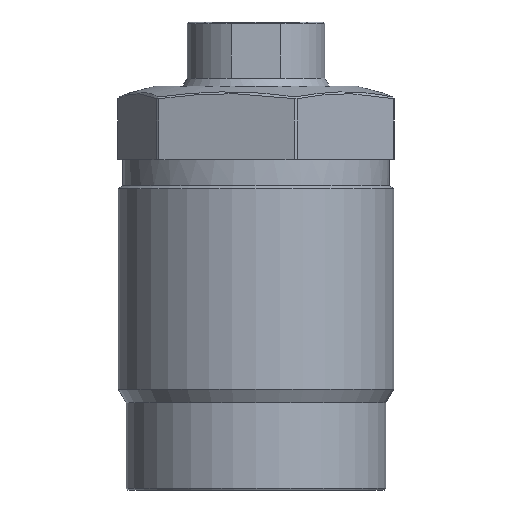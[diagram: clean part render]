
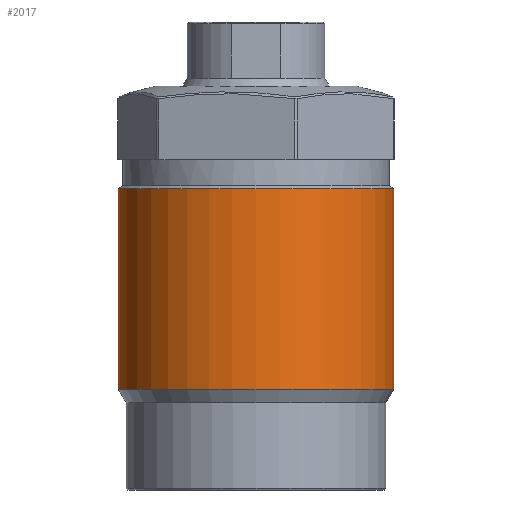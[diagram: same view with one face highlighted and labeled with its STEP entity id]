
A CAD part, front view. The second image highlights one B-rep face of the part: STEP entity #2017.
In plain terms, the highlighted cylindrical face has radius 15 mm (diameter 30 mm), a partial arc.
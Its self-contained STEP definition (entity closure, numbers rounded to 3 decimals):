
#47 = EDGE_CURVE ( 'NONE', #2692, #1356, #2928, .T. ) ;
#79 = ORIENTED_EDGE ( 'NONE', *, *, #2300, .F. ) ;
#182 = CARTESIAN_POINT ( 'NONE',  ( 15., 0., 36. ) ) ;
#394 = CIRCLE ( 'NONE', #2530, 15. ) ;
#472 = FACE_OUTER_BOUND ( 'NONE', #609, .T. ) ;
#498 = LINE ( 'NONE', #182, #1821 ) ;
#609 = EDGE_LOOP ( 'NONE', ( #79, #3006, #1697, #3099 ) ) ;
#1016 = DIRECTION ( 'NONE',  ( 0., 0., -1. ) ) ;
#1056 = DIRECTION ( 'NONE',  ( -1., 0., 0. ) ) ;
#1065 = DIRECTION ( 'NONE',  ( -1., 0., 0. ) ) ;
#1261 = DIRECTION ( 'NONE',  ( 0., 0., -1. ) ) ;
#1271 = LINE ( 'NONE', #2374, #2258 ) ;
#1309 = CYLINDRICAL_SURFACE ( 'NONE', #2764, 15. ) ;
#1356 = VERTEX_POINT ( 'NONE', #3054 ) ;
#1396 = CARTESIAN_POINT ( 'NONE',  ( 15., 0., 11. ) ) ;
#1697 = ORIENTED_EDGE ( 'NONE', *, *, #1780, .T. ) ;
#1743 = AXIS2_PLACEMENT_3D ( 'NONE', #1778, #1016, #2081 ) ;
#1778 = CARTESIAN_POINT ( 'NONE',  ( 0., 0., 32.845 ) ) ;
#1780 = EDGE_CURVE ( 'NONE', #1356, #2280, #1271, .T. ) ;
#1821 = VECTOR ( 'NONE', #1261, 1000. ) ;
#2017 = ADVANCED_FACE ( 'NONE', ( #472 ), #1309, .T. ) ;
#2081 = DIRECTION ( 'NONE',  ( -1., 0., 0. ) ) ;
#2090 = DIRECTION ( 'NONE',  ( 0., 0., 1. ) ) ;
#2114 = CARTESIAN_POINT ( 'NONE',  ( 15., 0., 32.845 ) ) ;
#2119 = CARTESIAN_POINT ( 'NONE',  ( 0., 0., 11. ) ) ;
#2258 = VECTOR ( 'NONE', #2873, 1000. ) ;
#2280 = VERTEX_POINT ( 'NONE', #2864 ) ;
#2300 = EDGE_CURVE ( 'NONE', #2692, #3478, #498, .T. ) ;
#2374 = CARTESIAN_POINT ( 'NONE',  ( -15., 0., 36. ) ) ;
#2530 = AXIS2_PLACEMENT_3D ( 'NONE', #2119, #2090, #1065 ) ;
#2616 = CARTESIAN_POINT ( 'NONE',  ( 0., 0., 36. ) ) ;
#2692 = VERTEX_POINT ( 'NONE', #2114 ) ;
#2764 = AXIS2_PLACEMENT_3D ( 'NONE', #2616, #3211, #1056 ) ;
#2864 = CARTESIAN_POINT ( 'NONE',  ( -15., 0., 11. ) ) ;
#2873 = DIRECTION ( 'NONE',  ( 0., 0., -1. ) ) ;
#2928 = CIRCLE ( 'NONE', #1743, 15. ) ;
#3006 = ORIENTED_EDGE ( 'NONE', *, *, #47, .T. ) ;
#3054 = CARTESIAN_POINT ( 'NONE',  ( -15., 0., 32.845 ) ) ;
#3076 = EDGE_CURVE ( 'NONE', #2280, #3478, #394, .T. ) ;
#3099 = ORIENTED_EDGE ( 'NONE', *, *, #3076, .T. ) ;
#3211 = DIRECTION ( 'NONE',  ( 0., 0., -1. ) ) ;
#3478 = VERTEX_POINT ( 'NONE', #1396 ) ;
